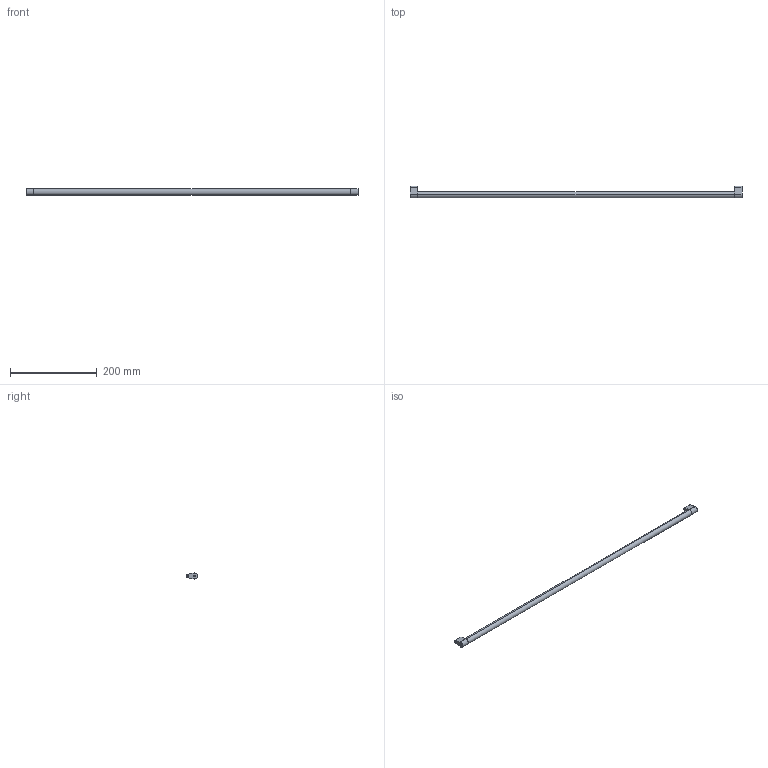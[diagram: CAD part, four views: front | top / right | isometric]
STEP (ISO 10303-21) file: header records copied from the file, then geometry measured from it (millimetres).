
FILE_DESCRIPTION (( 'STEP AP214' ), '1' );
FILE_NAME ('_Synchronisationseinheit Nova Pro KAB850_S16.step', '2010-07-08T13:58:33', ( 'grass' ), ( '' ), 'SwSTEP 2.0', 'SolidWorks 2010', '' );
FILE_SCHEMA (( 'AUTOMOTIVE_DESIGN' ));
Length unit declared in the file: millimetre
Products named in the file (1): _Synchronisationseinheit Nova Pro KAB850_S16
Bounding box: 765 x 26.5 x 14 mm (x, y, z)
Volume: 121449.4 mm3; surface area: 36493.4 mm2
Topology: 3 solids, 3 shells, 36 faces, 78 edges, 52 vertices
Faces by surface type: cylinder 18, plane 18
Entity records: 1050 total; most frequent: DIRECTION 188, CARTESIAN_POINT 167, ORIENTED_EDGE 156, EDGE_CURVE 78, AXIS2_PLACEMENT_3D 73, VERTEX_POINT 52, VECTOR 42, LINE 42
